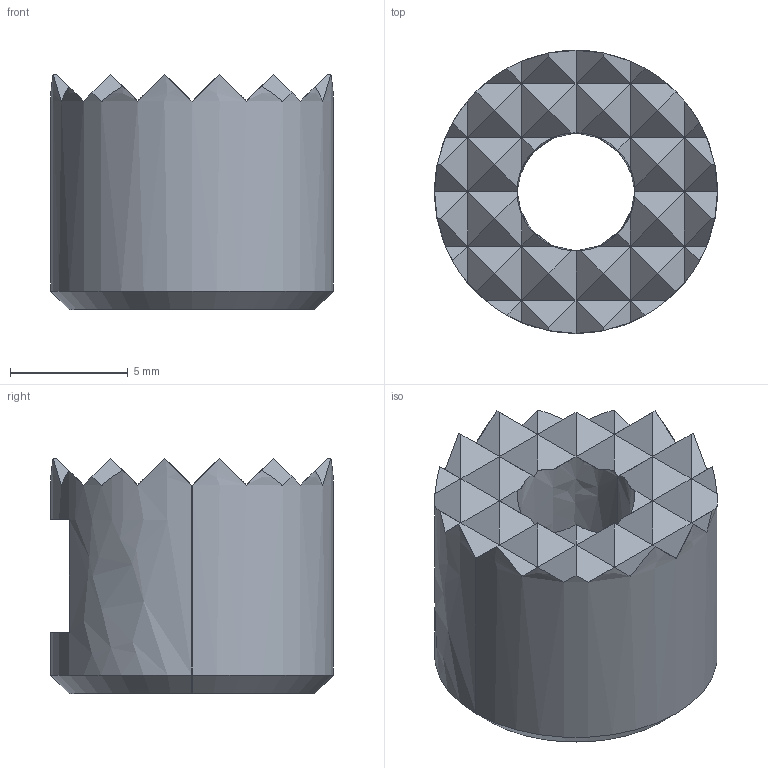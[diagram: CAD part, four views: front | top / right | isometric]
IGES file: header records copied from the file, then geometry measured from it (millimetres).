
Start section: SolidWorks IGES file using analytic representation for surfaces
Global section: file name: X:\11_SW2020-Inv2020\00_全2021-11新製品まで\h\HS-120\hs-120.IGS; native system: SolidWorks 2020; preprocessor: SolidWorks 2020; author: ImaoCorp; date: 211026.101619; units: millimetre
Bounding box: 12 x 12 x 10 mm (x, y, z)
Surface area: 700.1 mm2 (no closed solid volume)
Topology: 0 solids, 0 shells, 108 faces, 542 edges, 542 vertices
Faces by surface type: bspline 100, revolution 8
